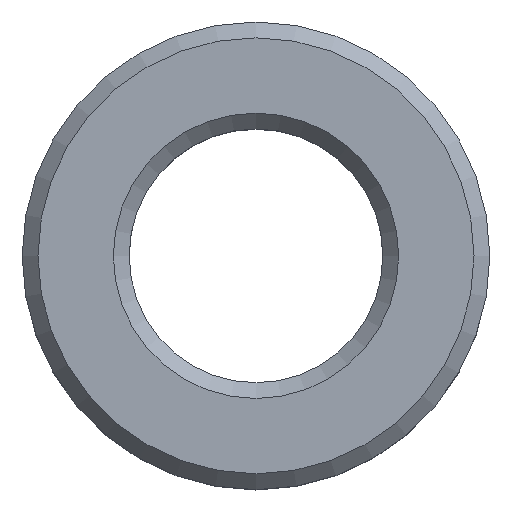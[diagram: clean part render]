
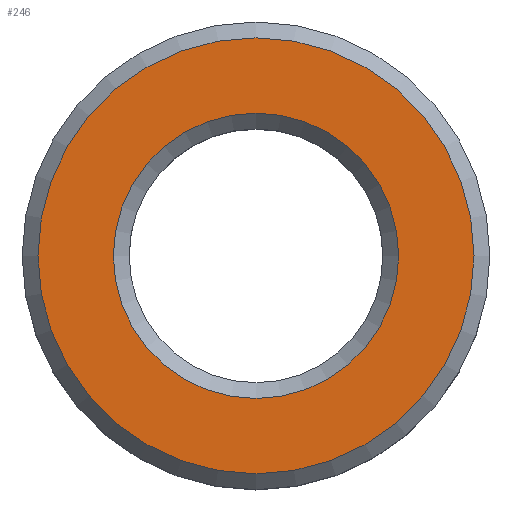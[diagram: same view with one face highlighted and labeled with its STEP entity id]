
A CAD part, top view. The second image highlights one B-rep face of the part: STEP entity #246.
In plain terms, the highlighted planar face has unit normal (0, 0, 1).
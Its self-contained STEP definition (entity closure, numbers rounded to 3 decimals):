
#66 = CONICAL_SURFACE('',#67,2.95,0.785);
#67 = AXIS2_PLACEMENT_3D('',#68,#69,#70);
#68 = CARTESIAN_POINT('',(0.,0.,1.05));
#69 = DIRECTION('',(-0.,-0.,-1.));
#70 = DIRECTION('',(1.,0.,0.));
#163 = VERTEX_POINT('',#164);
#164 = CARTESIAN_POINT('',(2.75,0.,1.25));
#185 = EDGE_CURVE('',#163,#163,#186,.T.);
#186 = SURFACE_CURVE('',#187,(#192,#199),.PCURVE_S1.);
#187 = CIRCLE('',#188,2.75);
#188 = AXIS2_PLACEMENT_3D('',#189,#190,#191);
#189 = CARTESIAN_POINT('',(0.,0.,1.25));
#190 = DIRECTION('',(0.,0.,1.));
#191 = DIRECTION('',(1.,0.,-0.));
#192 = PCURVE('',#66,#193);
#193 = DEFINITIONAL_REPRESENTATION('',(#194),#198);
#194 = LINE('',#195,#196);
#195 = CARTESIAN_POINT('',(-0.,-0.2));
#196 = VECTOR('',#197,1.);
#197 = DIRECTION('',(-1.,-0.));
#198 = ( GEOMETRIC_REPRESENTATION_CONTEXT(2) 
PARAMETRIC_REPRESENTATION_CONTEXT() REPRESENTATION_CONTEXT('2D SPACE',''
  ) );
#199 = PCURVE('',#200,#205);
#200 = PLANE('',#201);
#201 = AXIS2_PLACEMENT_3D('',#202,#203,#204);
#202 = CARTESIAN_POINT('',(0.,0.,1.25));
#203 = DIRECTION('',(0.,0.,1.));
#204 = DIRECTION('',(1.,0.,-0.));
#205 = DEFINITIONAL_REPRESENTATION('',(#206),#210);
#206 = CIRCLE('',#207,2.75);
#207 = AXIS2_PLACEMENT_2D('',#208,#209);
#208 = CARTESIAN_POINT('',(0.,0.));
#209 = DIRECTION('',(1.,0.));
#210 = ( GEOMETRIC_REPRESENTATION_CONTEXT(2) 
PARAMETRIC_REPRESENTATION_CONTEXT() REPRESENTATION_CONTEXT('2D SPACE',''
  ) );
#246 = ADVANCED_FACE('',(#247,#250),#200,.T.);
#247 = FACE_BOUND('',#248,.T.);
#248 = EDGE_LOOP('',(#249));
#249 = ORIENTED_EDGE('',*,*,#185,.T.);
#250 = FACE_BOUND('',#251,.T.);
#251 = EDGE_LOOP('',(#252));
#252 = ORIENTED_EDGE('',*,*,#253,.F.);
#253 = EDGE_CURVE('',#254,#254,#256,.T.);
#254 = VERTEX_POINT('',#255);
#255 = CARTESIAN_POINT('',(1.8,0.,1.25));
#256 = SURFACE_CURVE('',#257,(#262,#269),.PCURVE_S1.);
#257 = CIRCLE('',#258,1.8);
#258 = AXIS2_PLACEMENT_3D('',#259,#260,#261);
#259 = CARTESIAN_POINT('',(0.,0.,1.25));
#260 = DIRECTION('',(0.,0.,1.));
#261 = DIRECTION('',(1.,0.,-0.));
#262 = PCURVE('',#200,#263);
#263 = DEFINITIONAL_REPRESENTATION('',(#264),#268);
#264 = CIRCLE('',#265,1.8);
#265 = AXIS2_PLACEMENT_2D('',#266,#267);
#266 = CARTESIAN_POINT('',(0.,0.));
#267 = DIRECTION('',(1.,0.));
#268 = ( GEOMETRIC_REPRESENTATION_CONTEXT(2) 
PARAMETRIC_REPRESENTATION_CONTEXT() REPRESENTATION_CONTEXT('2D SPACE',''
  ) );
#269 = PCURVE('',#270,#275);
#270 = CONICAL_SURFACE('',#271,1.6,0.785);
#271 = AXIS2_PLACEMENT_3D('',#272,#273,#274);
#272 = CARTESIAN_POINT('',(0.,0.,1.05));
#273 = DIRECTION('',(0.,0.,1.));
#274 = DIRECTION('',(1.,0.,-0.));
#275 = DEFINITIONAL_REPRESENTATION('',(#276),#280);
#276 = LINE('',#277,#278);
#277 = CARTESIAN_POINT('',(-0.,0.2));
#278 = VECTOR('',#279,1.);
#279 = DIRECTION('',(1.,-0.));
#280 = ( GEOMETRIC_REPRESENTATION_CONTEXT(2) 
PARAMETRIC_REPRESENTATION_CONTEXT() REPRESENTATION_CONTEXT('2D SPACE',''
  ) );
